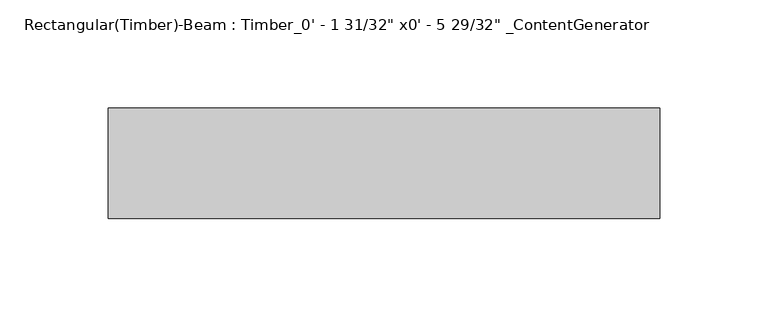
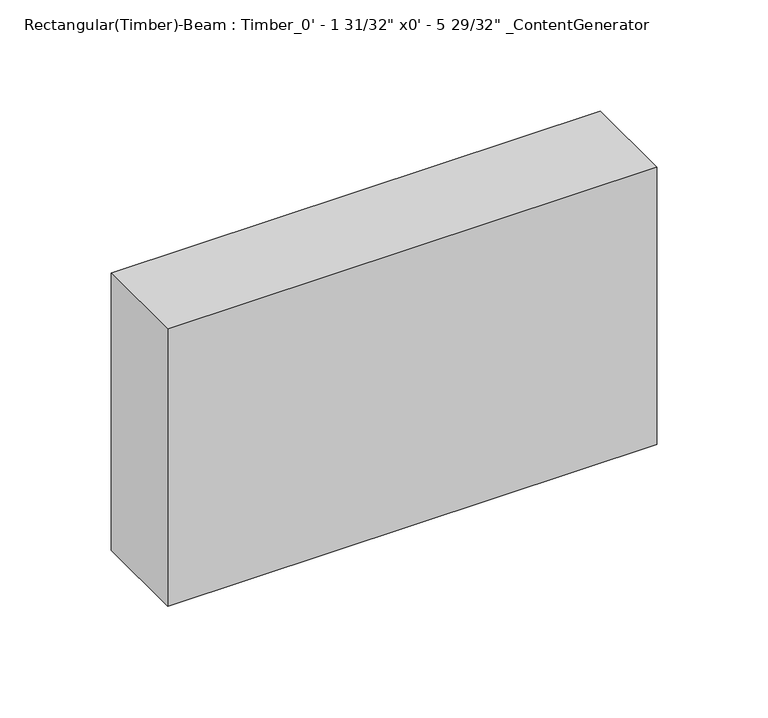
"""IFC4 building model written with IfcOpenShell, lengths in millimetres: beam geometry."""

import ifcopenshell
import ifcopenshell.guid

model = None  # the IFC model being written
_history = None  # IfcOwnerHistory: only IFC2X3 demands one
_inside = {}  # id of a spatial element -> (the spatial element, [elements in it])
_under = {}  # id of a project, library or spatial element -> (it, [spatial elements below it])
_declared = {}  # id of a project -> (the project, [libraries it declares])
_typed = {}  # id of a type object -> (the type object, [elements of that type])
_made_of = {}  # id of a material, layer set ... -> (it, [elements and type objects made of it])


def new_model(schema):
    """Start an empty IFC model of exactly this schema.

    Asked for "IFC4X3", IfcOpenShell would pick the latest addendum, in which some entities
    have other attributes; the version numbers below select the first issue.
    IFC2X3 requires an IfcOwnerHistory on every rooted entity: one is made here for all.
    """
    global model, _history
    if schema == "IFC4X3":
        model = ifcopenshell.file(schema_version=(4, 3, 0, 0))
    else:
        model = ifcopenshell.file(schema=schema)
    _inside.clear()
    _under.clear()
    _declared.clear()
    _typed.clear()
    _made_of.clear()
    _history = None
    if model.schema == "IFC2X3":
        org = make("IfcOrganization", Name="unknown")
        user = make(
            "IfcPersonAndOrganization",
            ThePerson=make("IfcPerson", FamilyName="unknown"),
            TheOrganization=org,
        )
        app = make(
            "IfcApplication",
            ApplicationDeveloper=org,
            Version="unknown",
            ApplicationFullName="unknown",
            ApplicationIdentifier="unknown",
        )
        _history = make(
            "IfcOwnerHistory",
            OwningUser=user,
            OwningApplication=app,
            ChangeAction="ADDED",
            CreationDate=0,
        )
    return model


def make(cls, **values):
    """One entity of the class cls with the attributes given. An attribute that is None is left unset."""
    return model.create_entity(
        cls, **{name: value for name, value in values.items() if value is not None}
    )


def rooted(cls, **values):
    """An entity with a GlobalId (a new one), such as an element, a storey or a relation."""
    return make(cls, GlobalId=ifcopenshell.guid.new(), OwnerHistory=_history, **values)


def si_unit(unit_type, name, prefix=None):
    """IfcSIUnit, for example si_unit("LENGTHUNIT", "METRE", prefix="MILLI")."""
    return make("IfcSIUnit", UnitType=unit_type, Prefix=prefix, Name=name)


def assignment(units):
    """IfcUnitAssignment: the units of a project."""
    return None if units is None else make("IfcUnitAssignment", Units=units)


def point(xyz):
    """IfcCartesianPoint."""
    return None if xyz is None else make("IfcCartesianPoint", Coordinates=xyz)


def direction(xyz):
    """IfcDirection."""
    return None if xyz is None else make("IfcDirection", DirectionRatios=xyz)


def frame(location, z_axis=None, x_axis=None):
    """IfcAxis2Placement3D, a coordinate frame: its origin and axes. An axis left out is left unset."""
    return make(
        "IfcAxis2Placement3D",
        Location=point(location),
        Axis=direction(z_axis),
        RefDirection=direction(x_axis),
    )


def origin():
    """The frame at (0, 0, 0) with its axes left unset."""
    return frame((0.0, 0.0, 0.0))


def place(relative_to, where):
    """IfcLocalPlacement: puts the frame where relative to a parent placement (None: the world)."""
    return make(
        "IfcLocalPlacement", PlacementRelTo=relative_to, RelativePlacement=where
    )


def context(
    kind, dimensions, precision=None, world=None, true_north=None, identifier=None
):
    """IfcGeometricRepresentationContext, for example the 3D "Model" context."""
    return make(
        "IfcGeometricRepresentationContext",
        ContextIdentifier=identifier,
        ContextType=kind,
        CoordinateSpaceDimension=dimensions,
        Precision=precision,
        WorldCoordinateSystem=world,
        TrueNorth=true_north,
    )


def project(units=None, contexts=None):
    """IfcProject with its units and contexts."""
    return rooted(
        "IfcProject",
        Name="project",
        RepresentationContexts=contexts,
        UnitsInContext=assignment(units),
    )


def spatial(cls, under=None, at=None, **own):
    """A site, building, storey or space (cls), placed at a placement, below another one or the project."""
    s = rooted(cls, ObjectPlacement=at, **own)
    if under is not None:
        _under.setdefault(under.id(), (under, []))[1].append(s)
    return s


def polyline(points):
    """IfcPolyline through the points."""
    return make("IfcPolyline", Points=[point(p) for p in points])


def outline(outer, holes=None, kind="AREA"):
    """IfcArbitraryClosedProfileDef: a profile drawn as a closed curve; with holes, ...WithVoids."""
    if holes is None:
        return make("IfcArbitraryClosedProfileDef", ProfileType=kind, OuterCurve=outer)
    return make(
        "IfcArbitraryProfileDefWithVoids",
        ProfileType=kind,
        OuterCurve=outer,
        InnerCurves=holes,
    )


def extrude(swept, where, along, depth):
    """IfcExtrudedAreaSolid: the profile swept, set in the frame where, extruded along a direction by depth."""
    return make(
        "IfcExtrudedAreaSolid",
        SweptArea=swept,
        Position=where,
        ExtrudedDirection=direction(along),
        Depth=depth,
    )


def shape(context_of_items, identifier, shape_type, items):
    """IfcShapeRepresentation: the items that make up one representation, for example the "Body"."""
    return make(
        "IfcShapeRepresentation",
        ContextOfItems=context_of_items,
        RepresentationIdentifier=identifier,
        RepresentationType=shape_type,
        Items=items,
    )


def source(mapping_origin, context_of_items, identifier, shape_type, items):
    """IfcRepresentationMap: a shape defined once, which mapped items show again and again."""
    return make(
        "IfcRepresentationMap",
        MappingOrigin=mapping_origin,
        MappedRepresentation=shape(context_of_items, identifier, shape_type, items),
    )


def transform(
    local_origin,
    x_axis=None,
    y_axis=None,
    z_axis=None,
    scale=None,
    scale2=None,
    scale3=None,
    uniform=True,
):
    """IfcCartesianTransformationOperator3D, or its non-uniform kind. x_axis, y_axis, z_axis: its Axis1, 2, 3."""
    if uniform:
        return make(
            "IfcCartesianTransformationOperator3D",
            Axis1=direction(x_axis),
            Axis2=direction(y_axis),
            LocalOrigin=point(local_origin),
            Scale=scale,
            Axis3=direction(z_axis),
        )
    return make(
        "IfcCartesianTransformationOperator3DnonUniform",
        Axis1=direction(x_axis),
        Axis2=direction(y_axis),
        LocalOrigin=point(local_origin),
        Scale=scale,
        Axis3=direction(z_axis),
        Scale2=scale2,
        Scale3=scale3,
    )


def mapped(mapping_source, mapping_target):
    """IfcMappedItem: shows the shape of a source again, moved by a transform."""
    return make(
        "IfcMappedItem", MappingSource=mapping_source, MappingTarget=mapping_target
    )


def made_of(thing, what):
    """Note that an element or type object is made of a material, layer set ...; save() writes the relation."""
    if what is not None:
        _made_of.setdefault(what.id(), (what, []))[1].append(thing)
    return thing


def element(
    cls,
    number,
    at=None,
    inside=None,
    cuts=None,
    type_object=None,
    material=None,
    context=None,
    identifier="Body",
    shape_type=None,
    held_by="IfcProductDefinitionShape",
    body=None,
    shapes=None,
    **own,
):
    """One element of the class cls, such as IfcWall. Its Tag is "e" and its number.

    at: its placement. inside: the storey or other place that contains it. cuts: it is an
    opening in that element (IfcRelVoidsElement). A single representation is given by context,
    identifier, shape_type and body (its items); several are given by shapes. held_by: the class
    of the entity that holds the representations. save() writes the other relations.
    """
    e = rooted(cls, Tag="e%d" % number, ObjectPlacement=at, **own)
    if body is not None:
        shapes = [shape(context, identifier, shape_type, body)]
    if shapes is not None:
        e.Representation = make(held_by, Representations=shapes)
    if inside is not None:
        _inside.setdefault(inside.id(), (inside, []))[1].append(e)
    if cuts is not None:
        rooted(
            "IfcRelVoidsElement", RelatingBuildingElement=cuts, RelatedOpeningElement=e
        )
    if type_object is not None:
        _typed.setdefault(type_object.id(), (type_object, []))[1].append(e)
    return made_of(e, material)


def aggregate(whole, parts):
    """IfcRelAggregates: a whole, such as a stair, and the parts it consists of."""
    return rooted("IfcRelAggregates", RelatingObject=whole, RelatedObjects=parts)


def save(model, path):
    """Write the relations noted so far, then the file.

    IfcRelAggregates (storeys below a building ...), IfcRelContainedInSpatialStructure (elements
    in a storey), IfcRelDefinesByType, IfcRelAssociatesMaterial and IfcRelDeclares: one each for
    every whole, place, type object, material and project.
    """
    for whole, parts in _under.values():
        aggregate(whole, parts)
    for where, things in _inside.values():
        rooted(
            "IfcRelContainedInSpatialStructure",
            RelatedElements=things,
            RelatingStructure=where,
        )
    for kind, things in _typed.values():
        rooted("IfcRelDefinesByType", RelatedObjects=things, RelatingType=kind)
    for what, things in _made_of.values():
        rooted("IfcRelAssociatesMaterial", RelatedObjects=things, RelatingMaterial=what)
    for by, libraries in _declared.values():
        rooted("IfcRelDeclares", RelatingContext=by, RelatedDefinitions=libraries)
    model.write(path)


def beam_8b53db74(model_context):
    return source(origin(), model_context, "Body", "SweptSolid", [
        extrude(outline(polyline([(126.995, 25.4), (126.995, -25.4), (-126.995, -25.4), (-126.995, 25.4), (126.995, 25.4)])), frame((0.0, 0.0, -76.2), z_axis=(0.0, 0.0, 1.0), x_axis=(1.0, 0.0, 0.0)), (0.0, 0.0, 1.0), 152.4),
    ])


if __name__ == "__main__":
    model = new_model("IFC4")
    model_context = context("Model", 3, world=origin())
    ifc_project = project(units=[si_unit("LENGTHUNIT", "METRE", prefix="MILLI")], contexts=[model_context])
    site = spatial("IfcSite", under=ifc_project)
    building = spatial("IfcBuilding", under=site)
    placement = place(None, origin())
    beam_shape = beam_8b53db74(model_context)
    element("IfcBeam", 1, ObjectType="Rectangular(Timber)-Beam : Timber_0' - 1 31/32\" x0' - 5 29/32\" _ContentGenerator", at=placement, inside=building, context=model_context, shape_type="MappedRepresentation", body=[
        mapped(beam_shape, transform((0.0, 0.0, 0.0), x_axis=(1.0, 0.0, 0.0), y_axis=(0.0, 1.0, 0.0), z_axis=(0.0, 0.0, 1.0))),
    ])
    save(model, "model.ifc")
